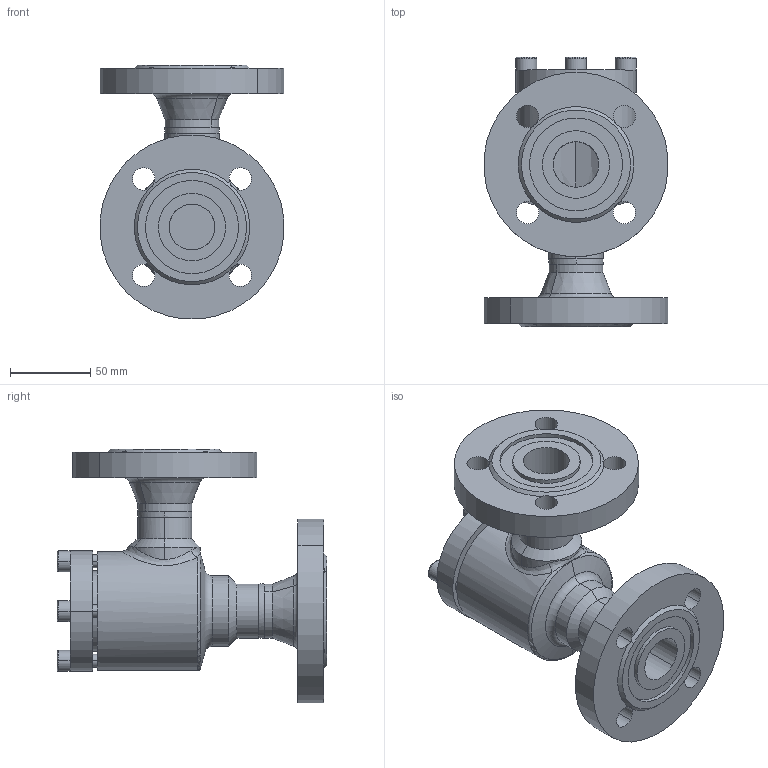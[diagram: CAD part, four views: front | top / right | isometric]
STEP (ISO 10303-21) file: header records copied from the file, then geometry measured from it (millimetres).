
FILE_DESCRIPTION (( 'STEP AP214' ), '1' );
FILE_NAME ('SS52420D12-DN025_DIN-FL-N_PS40.STEP', '2006-05-02T05:54:32', ( 'Herr Grams' ), ( 'AWP GmbH' ), 'SwSTEP 2.0', 'SolidWorks 2002296', '' );
FILE_SCHEMA (( 'AUTOMOTIVE_DESIGN' ));
Length unit declared in the file: millimetre
Products named in the file (9): SS52420D12-DN025_DIN-FL-N_PS40; SS52300E13_Deck+Schr-DN25-32_Standard; Deckel52300E13-DN25-32_Standard; Zylinderschraube-DIN912_M 8x 25; Gehäuse-kpl16420-DN025_DIN_PS40_Standard; Gehäuse16400-DN025_Standard; Flansch-DIN2635-Nut_PS40_DIN-Flansch-DN025_PS40-Nut; bead16420-Geh-025-2_Standard; bead16420-Geh-025-1_Standard
Assembly tree (12 placements, depth 3):
  SS52420D12-DN025_DIN-FL-N_PS40
    SS52300E13_Deck+Schr-DN25-32_Standard
      Zylinderschraube-DIN912_M 8x 25  x4
      Deckel52300E13-DN25-32_Standard
    Gehäuse-kpl16420-DN025_DIN_PS40_Standard
      bead16420-Geh-025-2_Standard
      Flansch-DIN2635-Nut_PS40_DIN-Flansch-DN025_PS40-Nut  x2
      bead16420-Geh-025-1_Standard
      Gehäuse16400-DN025_Standard
Bounding box: 114.56 x 168 x 158.28 mm (x, y, z)
Volume: 576553.1 mm3; surface area: 132911.7 mm2
Topology: 10 solids, 10 shells, 216 faces, 499 edges, 311 vertices
Faces by surface type: cylinder 85, plane 63, cone 41, torus 16, bspline 11
Entity records: 16161 total; most frequent: CARTESIAN_POINT 12571, DIRECTION 667, ORIENTED_EDGE 606, EDGE_CURVE 303, AXIS2_PLACEMENT_3D 283, VERTEX_POINT 187, EDGE_LOOP 158, CIRCLE 147
